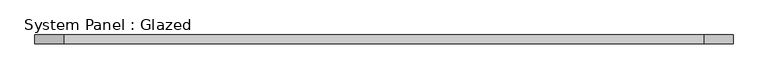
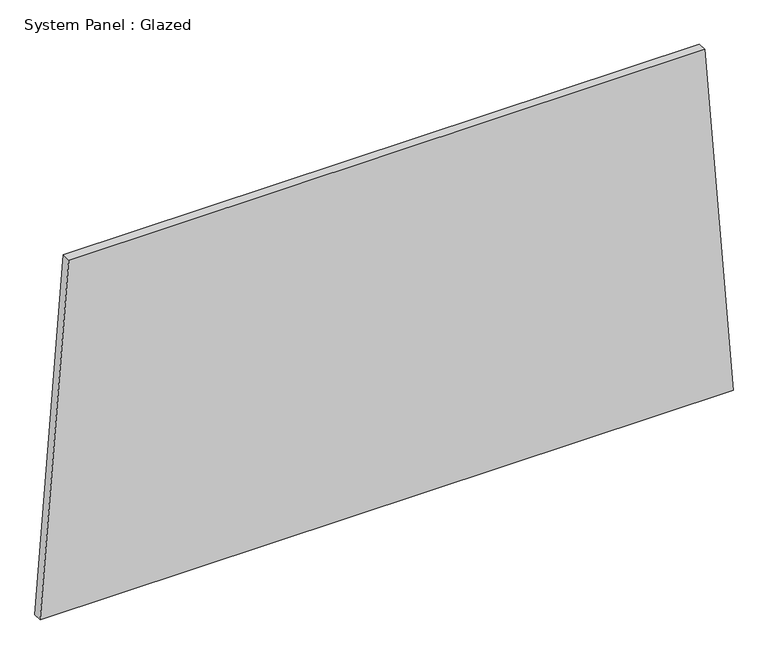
"""IFC4 building model written with IfcOpenShell, lengths in millimetres: plate geometry, System Panel : Glazed."""

from ifc_helpers import new_model, si_unit, frame, origin, place, context, project, spatial, polyline, outline, extrude, source, transform, mapped, element, save


def system_panel_glazed_7acfdb1a(model_context):
    return source(origin(), model_context, "Body", "SweptSolid", [
        extrude(outline(polyline([(0.0, -995.1068757), (0.0, 995.1068757), (1063.6419132, 913.0817547), (1063.6419132, -913.0817547), (0.0, -995.1068757)])), frame((0.0, -44.45, 0.0), z_axis=(0.0, 1.0, 0.0), x_axis=(0.0, 0.0, 1.0)), (0.0, 0.0, 1.0), 25.4),
    ])


if __name__ == "__main__":
    model = new_model("IFC4")
    model_context = context("Model", 3, world=origin())
    ifc_project = project(units=[si_unit("LENGTHUNIT", "METRE", prefix="MILLI")], contexts=[model_context])
    site = spatial("IfcSite", under=ifc_project)
    building = spatial("IfcBuilding", under=site)
    placement = place(None, origin())
    system_panel_glazed_shape = system_panel_glazed_7acfdb1a(model_context)
    element("IfcPlate", 1, ObjectType="System Panel : Glazed", at=placement, inside=building, context=model_context, shape_type="MappedRepresentation", body=[
        mapped(system_panel_glazed_shape, transform((0.0, 0.0, 0.0), x_axis=(1.0, 0.0, 0.0), y_axis=(0.0, 1.0, 0.0), z_axis=(0.0, 0.0, 1.0))),
    ])
    save(model, "model.ifc")
